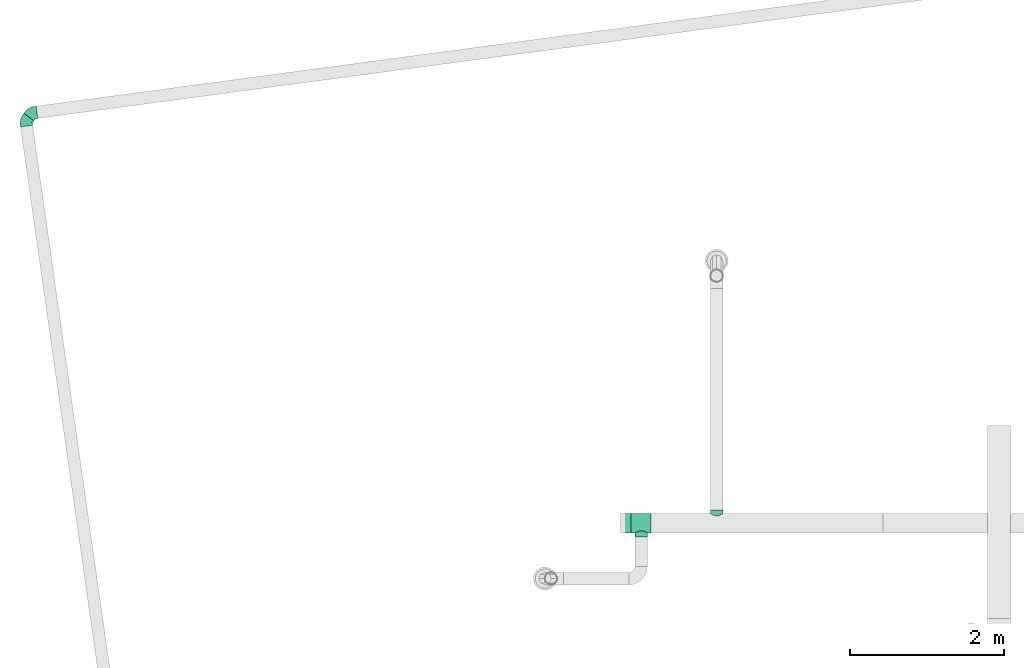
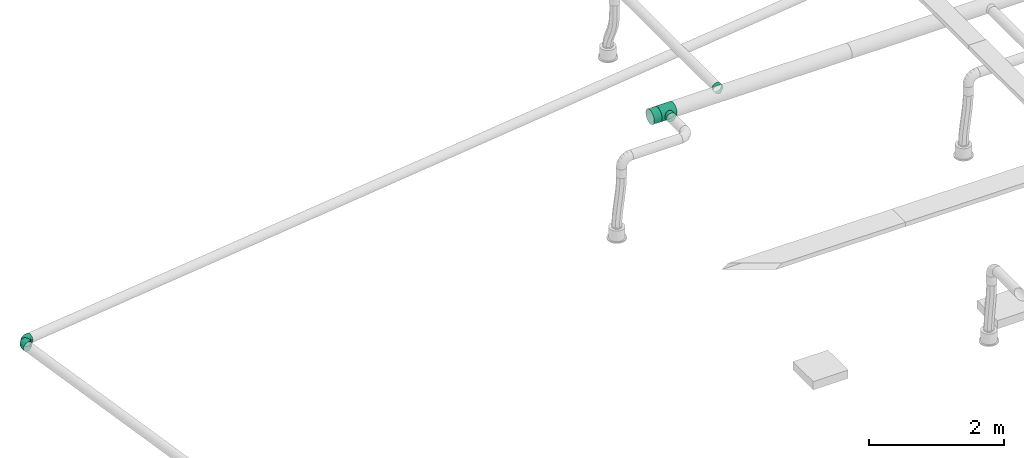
# One storey, part 38 of 374: 3 flow fittings, 2 flow segments.
"""IFC2X3 building model written with IfcOpenShell, lengths in metres."""

from ifc_helpers import new_model, si_unit, direction, origin, place, context, subcontext, project, spatial, open_shell, surface_model, source, transform, mapped, element, save


model = new_model("IFC2X3")

# Units and contexts
model_context = context("Model", 3, precision=1e-05, world=origin(), true_north=direction((-0.4480736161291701, 0.8939966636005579)))
body_context = subcontext(model_context, "Body", "Model", "MODEL_VIEW")
ifc_project = project(units=[si_unit("LENGTHUNIT", "METRE"), si_unit("AREAUNIT", "SQUARE_METRE"), si_unit("VOLUMEUNIT", "CUBIC_METRE"), si_unit("PLANEANGLEUNIT", "RADIAN"), si_unit("THERMODYNAMICTEMPERATUREUNIT", "KELVIN"), si_unit("MASSUNIT", "GRAM", prefix="KILO"), si_unit("TIMEUNIT", "SECOND")], contexts=[model_context])

# Site, building, storey
site_placement = place(None, origin())
site = spatial("IfcSite", under=ifc_project, at=site_placement, Name="Site 1", CompositionType="ELEMENT")
building_placement = place(site_placement, origin())
building = spatial("IfcBuilding", under=site, at=building_placement, Name="Undefined", CompositionType="ELEMENT")
storey_placement = place(building_placement, origin())
storey = spatial("IfcBuildingStorey", under=building, at=storey_placement, Name="Rez de chauss\x8ee", CompositionType="ELEMENT", Elevation=0.0)

# Flow segment
shared_shape_1 = source(origin(), body_context, "Body", "SurfaceModel", [
    surface_model("IfcFaceBasedSurfaceModel", [(0.0, 0.03263154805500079, 0.0), (0.0, 0.0, 0.0), (0.13500000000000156, -7.105427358e-15, 8.8817842e-16), (0.13500000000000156, 0.03263154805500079, 8.8817842e-16), (0.0, -0.031519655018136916, -0.008445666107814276), (0.13500000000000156, -0.03151965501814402, -0.008445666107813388), (0.0, -0.05977940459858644, -0.024761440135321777), (0.13500000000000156, -0.05977940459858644, -0.02476144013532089), (0.0, -0.08285339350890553, -0.047835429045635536), (0.13500000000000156, -0.08285339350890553, -0.04783542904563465), (0.0, -0.09916916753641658, -0.07609517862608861), (0.13500000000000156, -0.09916916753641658, -0.07609517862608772), (0.0, -0.1076148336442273, -0.10761483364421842), (0.13500000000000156, -0.10761483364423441, -0.10761483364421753), (0.0, -0.1076148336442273, -0.14024638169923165), (0.13500000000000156, -0.1076148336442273, -0.14024638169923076), (0.0, -0.09916916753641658, -0.17176603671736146), (0.13500000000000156, -0.09916916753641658, -0.17176603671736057), (0.0, -0.08285339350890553, -0.2000257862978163), (0.13500000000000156, -0.08285339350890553, -0.20002578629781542), (0.0, -0.059779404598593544, -0.22309977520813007), (0.13500000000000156, -0.05977940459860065, -0.2230997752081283), (0.0, -0.03151965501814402, -0.23941554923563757), (0.13500000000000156, -0.03151965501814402, -0.23941554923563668), (0.0, -1.4210854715e-14, -0.24786121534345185), (0.13500000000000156, -1.4210854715e-14, -0.24786121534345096), (0.0, 0.03263154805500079, -0.24786121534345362), (0.13500000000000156, 0.03263154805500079, -0.24786121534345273), (0.0, 0.0641512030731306, -0.23941554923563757), (0.13500000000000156, 0.0641512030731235, -0.23941554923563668), (0.0, 0.09241095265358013, -0.22309977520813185), (0.13500000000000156, 0.09241095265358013, -0.22309977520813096), (0.0, 0.11548494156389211, -0.2000257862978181), (0.13500000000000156, 0.11548494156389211, -0.2000257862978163), (0.0, 0.13180071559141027, -0.171766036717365), (0.13500000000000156, 0.13180071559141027, -0.17176603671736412), (0.0, 0.140246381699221, -0.1402463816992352), (0.13500000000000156, 0.14024638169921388, -0.14024638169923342), (0.0, 0.140246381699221, -0.10761483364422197), (0.13500000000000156, 0.140246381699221, -0.10761483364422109), (0.0, 0.13180071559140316, -0.07609517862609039), (0.13500000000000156, 0.13180071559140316, -0.07609517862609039), (0.0, 0.11548494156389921, -0.04783542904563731), (0.13500000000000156, 0.11548494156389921, -0.047835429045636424), (0.0, 0.09241095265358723, -0.024761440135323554), (0.13500000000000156, 0.09241095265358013, -0.024761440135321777), (0.0, 0.06415120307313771, -0.008445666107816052), (0.13500000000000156, 0.06415120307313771, -0.008445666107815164)], [open_shell([[[0, 1, 2, 3]], [[1, 4, 5, 2]], [[4, 6, 7, 5]], [[6, 8, 9, 7]], [[8, 10, 11, 9]], [[10, 12, 13, 11]], [[12, 14, 15, 13]], [[14, 16, 17, 15]], [[16, 18, 19, 17]], [[18, 20, 21, 19]], [[20, 22, 23, 21]], [[22, 24, 25, 23]], [[24, 26, 27, 25]], [[26, 28, 29, 27]], [[28, 30, 31, 29]], [[30, 32, 33, 31]], [[32, 34, 35, 33]], [[34, 36, 37, 35]], [[36, 38, 39, 37]], [[38, 40, 41, 39]], [[40, 42, 43, 41]], [[42, 44, 45, 43]], [[44, 46, 47, 45]], [[46, 0, 3, 47]]])]),
])
flow_segment_1_placement = place(storey_placement, origin())
element("IfcFlowSegment", 1, at=flow_segment_1_placement, inside=storey, Name="Manchon", ObjectType="Manchon", context=body_context, shape_type="MappedRepresentation", body=[
    mapped(shared_shape_1, transform((4.646000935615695, 22.777282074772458, 3.920740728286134), x_axis=(-1.0, 0.0, 0.0), y_axis=(7.266545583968e-12, -0.9914448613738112, 0.13052619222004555), z_axis=(0.0, 0.13052619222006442, 0.9914448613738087))),
])

# Flow fittings
shared_shape_2 = source(origin(), body_context, "Body", "SurfaceModel", [
    surface_model("IfcFaceBasedSurfaceModel", [(0.0, 0.03263154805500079, 0.0), (0.0, 0.0, 0.0), (0.2599999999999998, -7.105427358e-15, 0.0), (0.2599999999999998, 0.03263154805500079, 0.0), (0.0, -0.031519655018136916, -0.008445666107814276), (0.2599999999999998, -0.031519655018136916, -0.008445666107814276), (0.0, -0.05977940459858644, -0.024761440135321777), (0.2599999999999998, -0.05977940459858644, -0.024761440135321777), (0.0, -0.08285339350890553, -0.047835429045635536), (0.2599999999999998, -0.08285339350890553, -0.047835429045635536), (0.0, -0.09916916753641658, -0.07609517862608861), (0.2599999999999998, -0.09916916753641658, -0.07609517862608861), (0.0, -0.1076148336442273, -0.10761483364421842), (0.2599999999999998, -0.1076148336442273, -0.10761483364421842), (0.0, -0.1076148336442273, -0.14024638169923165), (0.2599999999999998, -0.1076148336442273, -0.14024638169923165), (0.0, -0.09916916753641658, -0.17176603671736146), (0.2599999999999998, -0.09916916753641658, -0.17176603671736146), (0.0, -0.08285339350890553, -0.2000257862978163), (0.2599999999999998, -0.08285339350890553, -0.2000257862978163), (0.0, -0.059779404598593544, -0.22309977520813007), (0.2599999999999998, -0.059779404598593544, -0.22309977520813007), (0.0, -0.03151965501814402, -0.23941554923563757), (0.2599999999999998, -0.03151965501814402, -0.23941554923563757), (0.0, -1.4210854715e-14, -0.24786121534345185), (0.2599999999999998, -1.4210854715e-14, -0.24786121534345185), (0.0, 0.03263154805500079, -0.24786121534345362), (0.2599999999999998, 0.03263154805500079, -0.24786121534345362), (0.0, 0.0641512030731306, -0.23941554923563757), (0.2599999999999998, 0.0641512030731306, -0.23941554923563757), (0.0, 0.09241095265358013, -0.22309977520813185), (0.2599999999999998, 0.09241095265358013, -0.22309977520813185), (0.0, 0.11548494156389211, -0.2000257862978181), (0.2599999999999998, 0.11548494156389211, -0.2000257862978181), (0.0, 0.13180071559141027, -0.171766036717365), (0.2599999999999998, 0.13180071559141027, -0.171766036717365), (0.0, 0.140246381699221, -0.1402463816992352), (0.2599999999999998, 0.140246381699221, -0.1402463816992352), (0.0, 0.140246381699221, -0.10761483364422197), (0.2599999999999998, 0.140246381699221, -0.10761483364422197), (0.0, 0.13180071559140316, -0.07609517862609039), (0.2599999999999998, 0.13180071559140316, -0.07609517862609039), (0.0, 0.11548494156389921, -0.04783542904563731), (0.2599999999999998, 0.11548494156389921, -0.04783542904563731), (0.0, 0.09241095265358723, -0.024761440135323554), (0.2599999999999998, 0.09241095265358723, -0.024761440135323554), (0.0, 0.06415120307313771, -0.008445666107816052), (0.2599999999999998, 0.06415120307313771, -0.008445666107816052), (0.20999999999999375, 0.14024638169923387, -0.14024638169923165), (0.2072740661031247, 0.1358317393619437, -0.1605493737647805), (0.2072740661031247, 0.18711601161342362, -0.16730107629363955), (0.20999999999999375, 0.18981862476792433, -0.14677269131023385), (0.19928203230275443, 0.12850875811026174, -0.17904625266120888), (0.19928203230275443, 0.1845975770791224, -0.1864304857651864), (0.18656854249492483, 0.11944596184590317, -0.19456462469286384), (0.18656854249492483, 0.1824349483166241, -0.20285728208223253), (0.1699999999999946, 0.11042580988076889, -0.20620029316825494), (0.1699999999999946, 0.1807755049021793, -0.2154620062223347), (0.15070552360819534, 0.10364225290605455, -0.2133682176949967), (0.15070552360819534, 0.1797323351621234, -0.22338566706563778), (0.12999999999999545, 0.10109884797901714, -0.21578282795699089), (0.12999999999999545, 0.17937652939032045, -0.22608828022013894), (0.10929447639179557, 0.10364225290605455, -0.2133682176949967), (0.10929447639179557, 0.1797323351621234, -0.22338566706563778), (0.0899999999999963, 0.11042580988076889, -0.20620029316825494), (0.0899999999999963, 0.1807755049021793, -0.2154620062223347), (0.07343145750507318, 0.11944596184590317, -0.19456462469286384), (0.07343145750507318, 0.1824349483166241, -0.20285728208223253), (0.06071796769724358, 0.12850875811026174, -0.17904625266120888), (0.06071796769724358, 0.1845975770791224, -0.1864304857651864), (0.052725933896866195, 0.1358317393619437, -0.1605493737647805), (0.052725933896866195, 0.18711601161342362, -0.16730107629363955), (0.04999999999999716, 0.14024638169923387, -0.14024638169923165), (0.04999999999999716, 0.18981862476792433, -0.14677269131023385), (0.052725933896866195, 0.14123696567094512, -0.11949260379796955), (0.052725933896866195, 0.19252123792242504, -0.12624430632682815), (0.06071796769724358, 0.13895085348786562, -0.09973066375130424), (0.06071796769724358, 0.19503967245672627, -0.10711489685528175), (0.07343145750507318, 0.13421331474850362, -0.08239544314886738), (0.07343145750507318, 0.19720230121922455, -0.09068810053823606), (0.0899999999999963, 0.12851204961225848, -0.06882166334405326), (0.0899999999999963, 0.1988617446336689, -0.07808337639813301), (0.10929447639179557, 0.12381483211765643, -0.060142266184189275), (0.10929447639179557, 0.19990491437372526, -0.07015971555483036), (0.12999999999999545, 0.12198303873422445, -0.057151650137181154), (0.12999999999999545, 0.20026072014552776, -0.0674571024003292), (0.15070552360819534, 0.12381483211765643, -0.060142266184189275), (0.15070552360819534, 0.19990491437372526, -0.07015971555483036), (0.1699999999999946, 0.12851204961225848, -0.06882166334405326), (0.1699999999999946, 0.1988617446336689, -0.07808337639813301), (0.18656854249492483, 0.13421331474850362, -0.08239544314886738), (0.18656854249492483, 0.19720230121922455, -0.09068810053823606), (0.19928203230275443, 0.13895085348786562, -0.09973066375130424), (0.19928203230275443, 0.19503967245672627, -0.10711489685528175), (0.2072740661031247, 0.14123696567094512, -0.11949260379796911), (0.2072740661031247, 0.19252123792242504, -0.12624430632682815)], [open_shell([[[0, 1, 2, 3]], [[1, 4, 5, 2]], [[4, 6, 7, 5]], [[6, 8, 9, 7]], [[8, 10, 11, 9]], [[10, 12, 13, 11]], [[12, 14, 15, 13]], [[14, 16, 17, 15]], [[16, 18, 19, 17]], [[18, 20, 21, 19]], [[20, 22, 23, 21]], [[22, 24, 25, 23]], [[24, 26, 27, 25]], [[26, 28, 29, 27]], [[28, 30, 31, 29]], [[30, 32, 33, 31]], [[32, 34, 35, 33]], [[34, 36, 37, 35]], [[36, 38, 39, 37]], [[38, 40, 41, 39]], [[40, 42, 43, 41]], [[42, 44, 45, 43]], [[44, 46, 47, 45]], [[46, 0, 3, 47]], [[48, 49, 50, 51]], [[49, 52, 53, 50]], [[52, 54, 55, 53]], [[54, 56, 57, 55]], [[56, 58, 59, 57]], [[58, 60, 61, 59]], [[60, 62, 63, 61]], [[62, 64, 65, 63]], [[64, 66, 67, 65]], [[66, 68, 69, 67]], [[68, 70, 71, 69]], [[70, 72, 73, 71]], [[72, 74, 75, 73]], [[74, 76, 77, 75]], [[76, 78, 79, 77]], [[78, 80, 81, 79]], [[80, 82, 83, 81]], [[82, 84, 85, 83]], [[84, 86, 87, 85]], [[86, 88, 89, 87]], [[88, 90, 91, 89]], [[90, 92, 93, 91]], [[92, 94, 95, 93]], [[94, 48, 51, 95]]])]),
])
flow_fitting_1_placement = place(storey_placement, origin())
element("IfcFlowFitting", 2, at=flow_fitting_1_placement, inside=storey, Name="Pièce en té 90°", ObjectType="Pièce en té 90°", context=body_context, shape_type="MappedRepresentation", body=[
    mapped(shared_shape_2, transform((4.646000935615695, 22.777282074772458, 3.679259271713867), x_axis=(1.0, 0.0, 0.0), y_axis=(0.0, -0.9914448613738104, -0.13052619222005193), z_axis=(0.0, 0.13052619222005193, -0.9914448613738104))),
])
shared_shape_3 = source(origin(), body_context, "Body", "SurfaceModel", [
    surface_model("IfcFaceBasedSurfaceModel", [(0.03259999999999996, -3.552713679e-15, -8.8817842e-16), (0.032600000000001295, 0.0208841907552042, -1.776356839e-15), (0.0, 0.020884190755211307, 0.0), (0.0, 0.0, 0.0), (0.03260000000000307, 0.041056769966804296, -0.005405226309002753), (0.0, 0.04105676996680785, -0.005405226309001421), (0.03260000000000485, 0.05914300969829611, -0.015847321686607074), (0.0, 0.05914300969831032, -0.015847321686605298), (0.03260000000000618, 0.07391036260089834, -0.030614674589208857), (0.0, 0.07391036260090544, -0.030614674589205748), (0.032600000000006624, 0.08435245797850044, -0.04870091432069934), (0.0, 0.0843524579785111, -0.048700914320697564), (0.032600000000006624, 0.08975768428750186, -0.0688734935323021), (0.0, 0.08975768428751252, -0.06887349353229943), (0.032600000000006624, 0.08975768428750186, -0.08975768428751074), (0.0, 0.08975768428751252, -0.08975768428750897), (0.03260000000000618, 0.08435245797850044, -0.1099302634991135), (0.0, 0.0843524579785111, -0.10993026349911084), (0.03260000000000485, 0.07391036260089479, -0.12801650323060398), (0.0, 0.07391036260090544, -0.12801650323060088), (0.03260000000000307, 0.05914300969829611, -0.14278385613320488), (0.0, 0.05914300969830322, -0.1427838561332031), (0.032600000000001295, 0.041056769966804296, -0.15322595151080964), (0.0, 0.04105676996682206, -0.15322595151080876), (0.03259999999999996, 0.0208841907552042, -0.15863117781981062), (0.0, 0.020884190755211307, -0.15863117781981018), (0.03259999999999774, -3.552713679e-15, -0.15863117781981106), (0.0, 7.105427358e-15, -0.15863117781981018), (0.03259999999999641, -0.0201725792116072, -0.1532259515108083), (0.0, -0.020172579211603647, -0.15322595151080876), (0.03259999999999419, -0.03825881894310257, -0.14278385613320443), (0.0, -0.038258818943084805, -0.14278385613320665), (0.0325999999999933, -0.05302617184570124, -0.12801650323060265), (0.0, -0.05302617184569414, -0.12801650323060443), (0.03259999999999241, -0.0634682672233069, -0.10993026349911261), (0.0, -0.06346826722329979, -0.10993026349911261), (0.03259999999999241, -0.06887349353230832, -0.08975768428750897), (0.0, -0.06887349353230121, -0.08975768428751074), (0.03259999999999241, -0.06887349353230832, -0.06887349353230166), (0.0, -0.06887349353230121, -0.06887349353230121), (0.0325999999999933, -0.06346826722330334, -0.04870091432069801), (0.0, -0.06346826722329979, -0.04870091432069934), (0.03259999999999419, -0.05302617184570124, -0.030614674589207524), (0.0, -0.05302617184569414, -0.0306146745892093), (0.03259999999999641, -0.038258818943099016, -0.015847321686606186), (0.0, -0.03825881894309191, -0.015847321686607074), (0.03259999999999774, -0.020172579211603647, -0.005405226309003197), (0.0, -0.020172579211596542, -0.005405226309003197), (-0.04091899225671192, 0.08438767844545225, -0.09046465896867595), (-0.04162821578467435, 0.08429460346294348, -0.06959272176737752), (-0.07901957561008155, 0.06864753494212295, -0.09253688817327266), (-0.0803891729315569, 0.068281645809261, -0.07170086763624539), (-0.11167746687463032, 0.04362139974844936, -0.09583164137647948), (-0.11361310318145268, 0.04282174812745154, -0.07505272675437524), (-0.03883965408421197, 0.07925533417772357, -0.1106013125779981), (-0.07500411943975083, 0.06431504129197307, -0.11256823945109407), (-0.10600246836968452, 0.04056063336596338, -0.11569556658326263), (-0.03553190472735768, 0.06924733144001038, -0.12863040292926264), (-0.06861645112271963, 0.05557941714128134, -0.1304298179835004), (-0.09697484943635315, 0.03384803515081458, -0.13329080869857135), (-0.03122116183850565, 0.055045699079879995, -0.143323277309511), (-0.06029187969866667, 0.043035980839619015, -0.14490438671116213), (-0.08520982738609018, 0.02394105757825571, -0.14741828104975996), (-0.02620119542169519, 0.037618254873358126, -0.1536786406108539), (-0.050597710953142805, 0.027539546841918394, -0.15500552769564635), (-0.07150916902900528, 0.011514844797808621, -0.1571152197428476), (-0.02081410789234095, 0.018152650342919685, -0.15899079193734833), (-0.040194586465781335, 0.010146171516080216, -0.1600448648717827), (-0.056806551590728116, -0.0025837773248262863, -0.16172079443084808), (-0.01542702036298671, -0.002024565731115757, -0.15889771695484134), (-0.02979146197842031, -0.00795881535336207, -0.15967897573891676), (-0.04210393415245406, -0.017394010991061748, -0.16092114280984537), (-0.010407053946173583, -0.021538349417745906, -0.15340575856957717), (-0.020097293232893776, -0.025541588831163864, -0.1539327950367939), (-0.028403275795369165, -0.03190656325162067, -0.15477075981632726), (-0.006096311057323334, -0.03905886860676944, -0.1428891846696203), (-0.01177272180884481, -0.04140391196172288, -0.14319791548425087), (-0.01663825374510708, -0.04513242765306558, -0.1436887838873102), (-0.002788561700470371, -0.05339212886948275, -0.12806468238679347), (-0.005385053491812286, -0.054464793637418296, -0.12820590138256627), (-0.007610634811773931, -0.05617028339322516, -0.12843043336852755), (-0.0007092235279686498, -0.06356134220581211, -0.10994251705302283), (-0.0013695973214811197, -0.0638341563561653, -0.10997843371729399), (-0.001935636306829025, -0.06426791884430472, -0.11003553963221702), (-0.0007092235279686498, -0.06896656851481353, -0.06888574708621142), (-0.0013695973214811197, -0.06923938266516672, -0.06892166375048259), (-0.001935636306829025, -0.06967314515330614, -0.06897876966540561), (-0.002788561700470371, -0.06383422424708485, -0.04874909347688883), (-0.005385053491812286, -0.0649068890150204, -0.04889031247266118), (-0.007610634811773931, -0.06661237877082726, -0.04911484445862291), (-0.006096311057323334, -0.05382622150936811, -0.03072000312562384), (-0.01177272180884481, -0.05617126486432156, -0.031028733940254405), (-0.01663825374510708, -0.05989978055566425, -0.0315196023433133), (-0.010407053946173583, -0.03962458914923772, -0.01602712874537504), (-0.020097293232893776, -0.04362782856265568, -0.016554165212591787), (-0.028403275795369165, -0.04999280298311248, -0.017392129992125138), (-0.01542702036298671, -0.022197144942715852, -0.005671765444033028), (-0.02979146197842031, -0.028131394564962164, -0.0064530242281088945), (-0.04210393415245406, -0.03756659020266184, -0.007695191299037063), (-0.02081410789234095, -0.0027315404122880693, -0.00035961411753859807), (-0.040194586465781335, -0.010738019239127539, -0.0014136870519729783), (-0.056806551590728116, -0.02346796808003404, -0.0030896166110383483), (-0.02620119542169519, 0.01744567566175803, -0.00045268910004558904), (-0.050597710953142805, 0.0073669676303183, -0.0017795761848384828), (-0.07150916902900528, -0.008657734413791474, -0.003889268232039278), (-0.03122116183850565, 0.03695945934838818, -0.005944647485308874), (-0.06029187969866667, 0.0249497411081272, -0.00752575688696), (-0.08520982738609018, 0.005854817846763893, -0.010039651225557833), (-0.03553190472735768, 0.05447997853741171, -0.016461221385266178), (-0.06861645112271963, 0.040812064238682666, -0.018260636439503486), (-0.09697484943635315, 0.019080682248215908, -0.02112162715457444), (-0.03883965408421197, 0.06881323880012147, -0.03128572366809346), (-0.07500411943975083, 0.05387294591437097, -0.03325265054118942), (-0.10600246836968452, 0.030118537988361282, -0.03637997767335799), (-0.04091899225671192, 0.07898245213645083, -0.04940788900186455), (-0.07901957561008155, 0.06324230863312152, -0.051480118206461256), (-0.11167746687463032, 0.03821617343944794, -0.05477487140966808), (-0.13463174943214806, 0.02067077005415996, -0.09885314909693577), (-0.1365673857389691, 0.019871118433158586, -0.07807423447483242), (-0.12895675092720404, 0.017610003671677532, -0.11871707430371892), (-0.1199291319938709, 0.010897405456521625, -0.13631231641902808), (-0.10816410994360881, 0.0009904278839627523, -0.15043978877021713), (-0.09446345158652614, -0.011435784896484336, -0.16013672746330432), (-0.07976083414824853, -0.02553440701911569, -0.16474230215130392), (-0.06505821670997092, -0.04034464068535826, -0.16394265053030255), (-0.0513575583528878, -0.054857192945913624, -0.1577922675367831), (-0.03959253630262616, -0.06808305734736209, -0.14671029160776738), (-0.030564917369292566, -0.07912091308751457, -0.13145194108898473), (-0.024889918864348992, -0.08721854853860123, -0.11305704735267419), (-0.022954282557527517, -0.09182412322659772, -0.09277919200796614), (-0.024889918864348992, -0.09262377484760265, -0.07200027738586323), (-0.030564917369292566, -0.08956300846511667, -0.05213635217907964), (-0.03959253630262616, -0.08285041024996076, -0.034541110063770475), (-0.0513575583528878, -0.07294343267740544, -0.02041363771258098), (-0.06505821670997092, -0.06051721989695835, -0.010716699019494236), (-0.07976083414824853, -0.046418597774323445, -0.006111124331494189), (-0.09446345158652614, -0.03160836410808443, -0.006910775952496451), (-0.10816410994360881, -0.017095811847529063, -0.013061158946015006), (-0.1199291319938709, -0.003869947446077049, -0.024143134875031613), (-0.12895675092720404, 0.007167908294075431, -0.03940148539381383), (-0.13463174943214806, 0.015265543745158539, -0.057796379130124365)], [open_shell([[[0, 1, 2, 3]], [[1, 4, 5, 2]], [[4, 6, 7, 5]], [[6, 8, 9, 7]], [[8, 10, 11, 9]], [[10, 12, 13, 11]], [[12, 14, 15, 13]], [[14, 16, 17, 15]], [[16, 18, 19, 17]], [[18, 20, 21, 19]], [[20, 22, 23, 21]], [[22, 24, 25, 23]], [[24, 26, 27, 25]], [[26, 28, 29, 27]], [[28, 30, 31, 29]], [[30, 32, 33, 31]], [[32, 34, 35, 33]], [[34, 36, 37, 35]], [[36, 38, 39, 37]], [[38, 40, 41, 39]], [[40, 42, 43, 41]], [[42, 44, 45, 43]], [[44, 46, 47, 45]], [[46, 0, 3, 47]], [[13, 15, 48, 49]], [[49, 48, 50, 51]], [[51, 50, 52, 53]], [[15, 17, 54, 48]], [[48, 54, 55, 50]], [[50, 55, 56, 52]], [[17, 19, 57, 54]], [[54, 57, 58, 55]], [[55, 58, 59, 56]], [[19, 21, 60, 57]], [[57, 60, 61, 58]], [[58, 61, 62, 59]], [[21, 23, 63, 60]], [[60, 63, 64, 61]], [[61, 64, 65, 62]], [[23, 25, 66, 63]], [[63, 66, 67, 64]], [[64, 67, 68, 65]], [[25, 27, 69, 66]], [[66, 69, 70, 67]], [[67, 70, 71, 68]], [[27, 29, 72, 69]], [[69, 72, 73, 70]], [[70, 73, 74, 71]], [[29, 31, 75, 72]], [[72, 75, 76, 73]], [[73, 76, 77, 74]], [[31, 33, 78, 75]], [[75, 78, 79, 76]], [[76, 79, 80, 77]], [[33, 35, 81, 78]], [[78, 81, 82, 79]], [[79, 82, 83, 80]], [[35, 37, 81]], [[81, 37, 82]], [[82, 37, 83]], [[37, 39, 84]], [[37, 84, 85]], [[37, 85, 86]], [[39, 41, 87, 84]], [[84, 87, 88, 85]], [[85, 88, 89, 86]], [[41, 43, 90, 87]], [[87, 90, 91, 88]], [[88, 91, 92, 89]], [[43, 45, 93, 90]], [[90, 93, 94, 91]], [[91, 94, 95, 92]], [[45, 47, 96, 93]], [[93, 96, 97, 94]], [[94, 97, 98, 95]], [[47, 3, 99, 96]], [[96, 99, 100, 97]], [[97, 100, 101, 98]], [[3, 2, 102, 99]], [[99, 102, 103, 100]], [[100, 103, 104, 101]], [[2, 5, 105, 102]], [[102, 105, 106, 103]], [[103, 106, 107, 104]], [[5, 7, 108, 105]], [[105, 108, 109, 106]], [[106, 109, 110, 107]], [[7, 9, 111, 108]], [[108, 111, 112, 109]], [[109, 112, 113, 110]], [[9, 11, 114, 111]], [[111, 114, 115, 112]], [[112, 115, 116, 113]], [[11, 13, 49, 114]], [[114, 49, 51, 115]], [[115, 51, 53, 116]], [[53, 52, 117, 118]], [[52, 56, 119, 117]], [[56, 59, 120, 119]], [[59, 62, 121, 120]], [[62, 65, 122, 121]], [[65, 68, 123, 122]], [[68, 71, 124, 123]], [[71, 74, 125, 124]], [[74, 77, 126, 125]], [[77, 80, 127, 126]], [[80, 83, 128, 127]], [[83, 37, 129, 128]], [[37, 86, 130, 129]], [[86, 89, 131, 130]], [[89, 92, 132, 131]], [[92, 95, 133, 132]], [[95, 98, 134, 133]], [[98, 101, 135, 134]], [[101, 104, 136, 135]], [[104, 107, 137, 136]], [[107, 110, 138, 137]], [[110, 113, 139, 138]], [[113, 116, 140, 139]], [[116, 53, 118, 140]]])]),
])
flow_fitting_2_placement = place(storey_placement, origin())
element("IfcFlowFitting", 3, at=flow_fitting_2_placement, inside=storey, Name="PE-HD coude 45°", ObjectType="PE-HD coude 45°", context=body_context, shape_type="MappedRepresentation", body=[
    mapped(shared_shape_3, transform((-3.0824693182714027, 28.065327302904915, -0.713587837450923), x_axis=(0.9911796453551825, 0.13252513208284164, 0.0), y_axis=(-0.13139136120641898, 0.9826999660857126, -0.13052619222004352), z_axis=(-0.017298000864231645, 0.12937490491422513, 0.9914448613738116))),
])
flow_fitting_3_placement = place(storey_placement, origin())
element("IfcFlowFitting", 4, at=flow_fitting_3_placement, inside=storey, Name="PE-HD coude 45°", ObjectType="PE-HD coude 45°", context=body_context, shape_type="MappedRepresentation", body=[
    mapped(shared_shape_3, transform((-3.1749503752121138, 27.982396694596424, -0.713587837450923), x_axis=(0.6038048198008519, 0.797132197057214, 0.0), y_axis=(-0.7903126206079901, 0.598639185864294, -0.13052619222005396), z_axis=(-0.10404663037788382, 0.07881234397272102, 0.9914448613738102))),
])

# Flow segment
shared_shape_4 = source(origin(), body_context, "Body", "SurfaceModel", [
    surface_model("IfcFaceBasedSurfaceModel", [(0.001726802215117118, 0.020884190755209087, 0.0), (0.0, 0.0, 0.0), (0.051726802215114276, 8.8817842e-16, 0.0), (0.051726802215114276, 0.020884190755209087, 0.0), (-0.0048460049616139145, -0.02017257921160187, -0.005405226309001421), (0.051726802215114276, -0.02017257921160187, -0.005405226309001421), (-0.011805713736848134, -0.0382588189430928, -0.015847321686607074), (0.051726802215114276, -0.0382588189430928, -0.015847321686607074), (-0.019229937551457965, -0.05302617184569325, -0.0306146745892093), (0.051726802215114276, -0.05302617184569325, -0.0306146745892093), (-0.025019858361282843, -0.06346826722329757, -0.04870091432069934), (0.051726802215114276, -0.06346826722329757, -0.04870091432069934), (-0.027226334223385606, -0.06887349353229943, -0.06887349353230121), (0.051726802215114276, -0.06887349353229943, -0.06887349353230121), (-0.025019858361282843, -0.06887349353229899, -0.08975768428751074), (0.051726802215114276, -0.06887349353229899, -0.08975768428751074), (-0.019229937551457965, -0.06346826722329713, -0.10993026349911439), (0.051726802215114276, -0.06346826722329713, -0.10993026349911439), (-0.011805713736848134, -0.05302617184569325, -0.12801650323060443), (0.051726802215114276, -0.05302617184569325, -0.12801650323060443), (-0.0048460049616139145, -0.038258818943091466, -0.14278385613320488), (0.051726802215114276, -0.038258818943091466, -0.14278385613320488), (0.0, -0.020172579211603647, -0.15322595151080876), (0.051726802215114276, -0.020172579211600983, -0.15322595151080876), (0.001726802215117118, 2.220446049e-15, -0.15863117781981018), (0.051726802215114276, 2.220446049e-15, -0.15863117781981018), (0.0, 0.020884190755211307, -0.15863117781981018), (0.051726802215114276, 0.020884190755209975, -0.15863117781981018), (-0.0048460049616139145, 0.04105676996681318, -0.15322595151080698), (0.051726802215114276, 0.04105676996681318, -0.15322595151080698), (-0.011805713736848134, 0.05914300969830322, -0.1427838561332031), (0.051726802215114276, 0.05914300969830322, -0.1427838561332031), (-0.019229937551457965, 0.07391036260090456, -0.12801650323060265), (0.051726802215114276, 0.07391036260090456, -0.12801650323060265), (-0.025019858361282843, 0.08435245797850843, -0.10993026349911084), (0.051726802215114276, 0.08435245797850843, -0.10993026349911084), (-0.027226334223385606, 0.08975768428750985, -0.08975768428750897), (0.051726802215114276, 0.08975768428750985, -0.08975768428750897), (-0.025019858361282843, 0.08975768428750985, -0.06887349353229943), (0.051726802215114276, 0.08975768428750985, -0.06887349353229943), (-0.019229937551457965, 0.08435245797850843, -0.048700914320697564), (0.051726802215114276, 0.08435245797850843, -0.048700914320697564), (-0.011805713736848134, 0.07391036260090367, -0.030614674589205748), (0.051726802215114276, 0.07391036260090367, -0.030614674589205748), (-0.0048460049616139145, 0.05914300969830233, -0.01584732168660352), (0.051726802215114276, 0.05914300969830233, -0.01584732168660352), (0.0, 0.04105676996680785, -0.005405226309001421), (0.051726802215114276, 0.04105676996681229, -0.005405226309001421)], [open_shell([[[0, 1, 2, 3]], [[1, 4, 5, 2]], [[4, 6, 7, 5]], [[6, 8, 9, 7]], [[8, 10, 11, 9]], [[10, 12, 13, 11]], [[12, 14, 15, 13]], [[14, 16, 17, 15]], [[16, 18, 19, 17]], [[18, 20, 21, 19]], [[20, 22, 23, 21]], [[22, 24, 25, 23]], [[24, 26, 27, 25]], [[26, 28, 29, 27]], [[28, 30, 31, 29]], [[30, 32, 33, 31]], [[32, 34, 35, 33]], [[34, 36, 37, 35]], [[36, 38, 39, 37]], [[38, 40, 41, 39]], [[40, 42, 43, 41]], [[42, 44, 45, 43]], [[44, 46, 47, 45]], [[46, 0, 3, 47]]])]),
])
flow_segment_2_placement = place(storey_placement, origin())
element("IfcFlowSegment", 5, at=flow_segment_2_placement, inside=storey, Name="Piquage équerre circulaire", ObjectType="Piquage équerre circulaire", context=body_context, shape_type="MappedRepresentation", body=[
    mapped(shared_shape_4, transform((5.676270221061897, 22.868202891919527, 3.820705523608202), x_axis=(0.0, 1.0, 0.0), y_axis=(-0.13052619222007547, 0.0, -0.9914448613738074), z_axis=(-0.9914448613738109, 0.0, 0.1305261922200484))),
])

save(model, "model.ifc")
